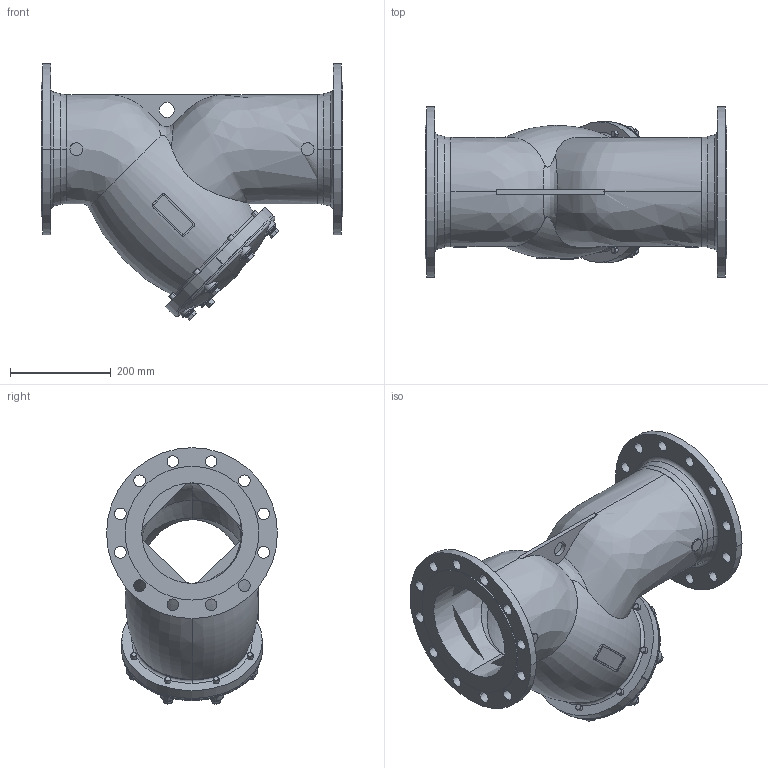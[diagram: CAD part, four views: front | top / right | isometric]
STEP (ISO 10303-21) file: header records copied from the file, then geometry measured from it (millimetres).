
FILE_DESCRIPTION(('Open CASCADE Model'),'2;1');
FILE_NAME('Open CASCADE Shape Model','2023-03-02T07:19:38',('Author'),( 'Open CASCADE'),'Open CASCADE STEP processor 7.3','Open CASCADE 7.3' ,'Unknown');
FILE_SCHEMA(('AUTOMOTIVE_DESIGN { 1 0 10303 214 1 1 1 1 }'));
Length unit declared in the file: millimetre
Products named in the file (28): Open CASCADE STEP translator 7.3 1; Open CASCADE STEP translator 7.3 1.1; Open CASCADE STEP translator 7.3 1.2; Open CASCADE STEP translator 7.3 1.3; Open CASCADE STEP translator 7.3 1.4; Open CASCADE STEP translator 7.3 1.5; Open CASCADE STEP translator 7.3 1.6; Open CASCADE STEP translator 7.3 1.7; Open CASCADE STEP translator 7.3 1.8; Open CASCADE STEP translator 7.3 1.9; Open CASCADE STEP translator 7.3 1.10; Open CASCADE STEP translator 7.3 1.11; Open CASCADE STEP translator 7.3 1.12; Open CASCADE STEP translator 7.3 1.13; Open CASCADE STEP translator 7.3 1.14; Open CASCADE STEP translator 7.3 1.15; Open CASCADE STEP translator 7.3 1.16; Open CASCADE STEP translator 7.3 1.17; Open CASCADE STEP translator 7.3 1.18; Open CASCADE STEP translator 7.3 1.19; Open CASCADE STEP translator 7.3 1.20; Open CASCADE STEP translator 7.3 1.21; Open CASCADE STEP translator 7.3 1.22; Open CASCADE STEP translator 7.3 1.23; Open CASCADE STEP translator 7.3 1.24; Open CASCADE STEP translator 7.3 1.25; Open CASCADE STEP translator 7.3 1.26; Open CASCADE STEP translator 7.3 1.27
Assembly tree (27 placements, depth 2):
  Open CASCADE STEP translator 7.3 1
    Open CASCADE STEP translator 7.3 1.1
    Open CASCADE STEP translator 7.3 1.2
    Open CASCADE STEP translator 7.3 1.3
    Open CASCADE STEP translator 7.3 1.4
    Open CASCADE STEP translator 7.3 1.5
    Open CASCADE STEP translator 7.3 1.6
    Open CASCADE STEP translator 7.3 1.7
    Open CASCADE STEP translator 7.3 1.8
    Open CASCADE STEP translator 7.3 1.9
    Open CASCADE STEP translator 7.3 1.10
    Open CASCADE STEP translator 7.3 1.11
    Open CASCADE STEP translator 7.3 1.12
    Open CASCADE STEP translator 7.3 1.13
    Open CASCADE STEP translator 7.3 1.14
    Open CASCADE STEP translator 7.3 1.15
    Open CASCADE STEP translator 7.3 1.16
    Open CASCADE STEP translator 7.3 1.17
    Open CASCADE STEP translator 7.3 1.18
    Open CASCADE STEP translator 7.3 1.19
    Open CASCADE STEP translator 7.3 1.20
    Open CASCADE STEP translator 7.3 1.21
    Open CASCADE STEP translator 7.3 1.22
    Open CASCADE STEP translator 7.3 1.23
    Open CASCADE STEP translator 7.3 1.24
    Open CASCADE STEP translator 7.3 1.25
    Open CASCADE STEP translator 7.3 1.26
    Open CASCADE STEP translator 7.3 1.27
Bounding box: 600 x 340 x 510.47 mm (x, y, z)
Volume: 7405117.4 mm3; surface area: 1472555.6 mm2
Topology: 27 solids, 27 shells, 684 faces, 1664 edges, 1052 vertices
Faces by surface type: cylinder 263, plane 242, cone 92, torus 49, bspline 26, sphere 8, revolution 4
Entity records: 70028 total; most frequent: CARTESIAN_POINT 37484, DIRECTION 5778, ORIENTED_EDGE 3320, PCURVE 3320, DEFINITIONAL_REPRESENTATION 3320, LINE 2451, VECTOR 2451, EDGE_CURVE 1660
